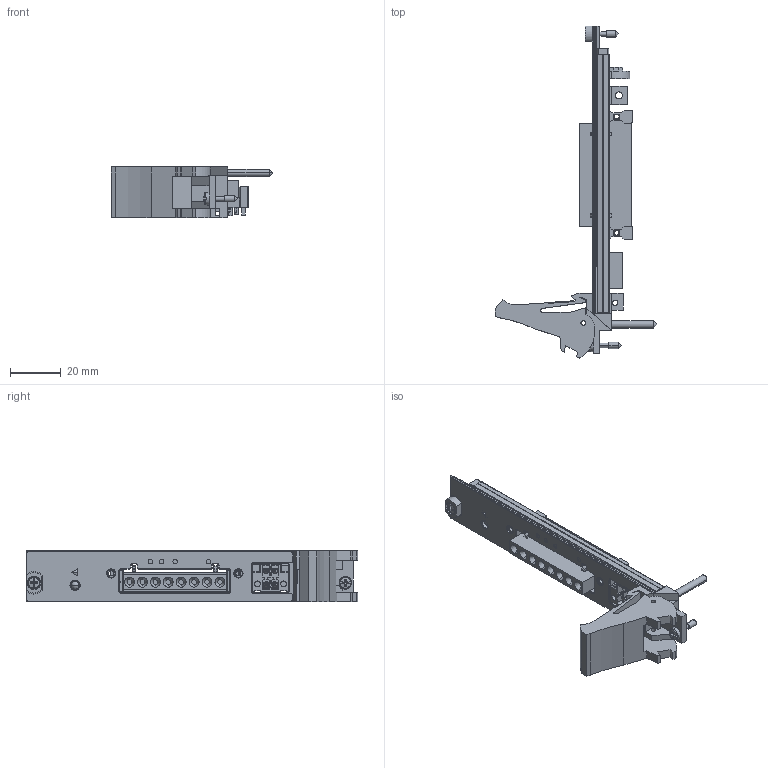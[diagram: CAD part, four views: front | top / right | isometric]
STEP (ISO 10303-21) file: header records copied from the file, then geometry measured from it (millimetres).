
FILE_DESCRIPTION((''),'2;1');
FILE_NAME('CU_PXIE-413X','2015-07-01T',('jjorden'),(''),'PRO/ENGINEER BY PARAMETRIC TECHNOLOGY CORPORATION, 2014000','PRO/ENGINEER BY PARAMETRIC TECHNOLOGY CORPORATION, 2014000','');
FILE_SCHEMA(('CONFIG_CONTROL_DESIGN'));
Length unit declared in the file: inch
Products named in the file (1): CU_PXIE-413X
Bounding box: 63.53 x 130.51 x 20.29 mm (x, y, z)
Volume: 22213.6 mm3; surface area: 20313.8 mm2
Topology: 4 solids, 4 shells, 1211 faces, 3320 edges, 2172 vertices
Faces by surface type: plane 810, cylinder 321, cone 68, sphere 8, torus 4
Entity records: 40915 total; most frequent: CARTESIAN_POINT 10111, ORIENTED_EDGE 6592, DIRECTION 6068, EDGE_CURVE 3296, VECTOR 2396, LINE 2396, VERTEX_POINT 2172, AXIS2_PLACEMENT_3D 1836
